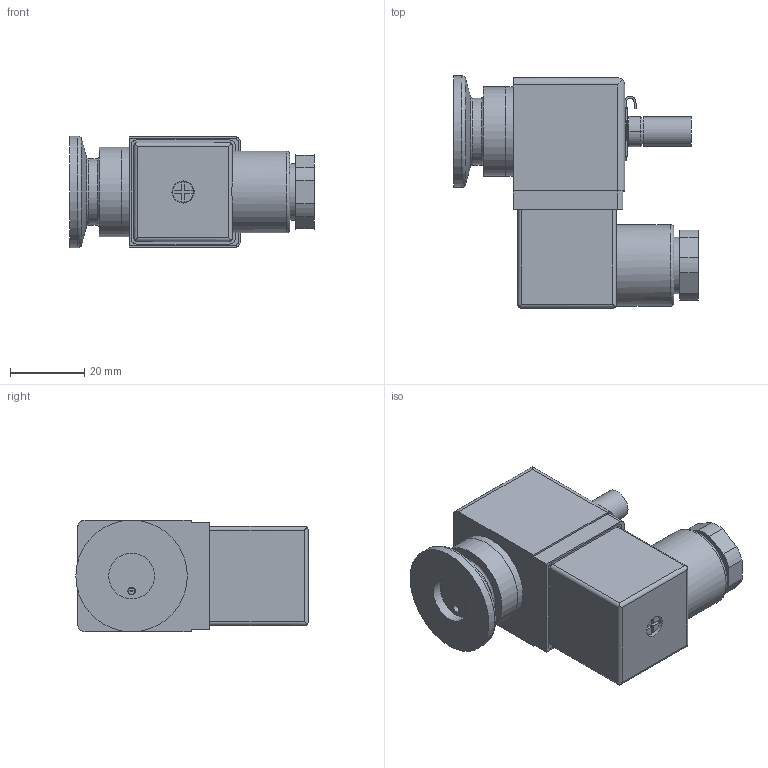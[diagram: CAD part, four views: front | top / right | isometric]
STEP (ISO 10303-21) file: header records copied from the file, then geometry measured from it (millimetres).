
FILE_DESCRIPTION(/* description */ (''),/* implementation_level */ '2;1');
FILE_NAME(/* name */ '1252402871_203.stp',/* time_stamp */ '2019-11-21T15:08:11+01:00',/* author */ (''),/* organization */ (''),/* preprocessor_version */ 'ST-DEVELOPER v16',/* originating_system */ 'SIEMENS PLM Software NX 11.0',/* authorisation */ '');
FILE_SCHEMA (('AP203_CONFIGURATION_CONTROLLED_3D_DESIGN_OF_MECHANICAL_PARTS_AND_ASSEMBLIES_MIM_LF { 1 0 10303 403 2 1 2}'));
Length unit declared in the file: millimetre
Products named in the file (7): 700464; 700614; n-7705-305.1; 582693; 595992; 597303; 587521
Assembly tree (6 placements, depth 2):
  587521
    597303
    595992
    582693
    n-7705-305.1
    700614
    700464
Bounding box: 65.8 x 62.5 x 30 mm (x, y, z)
Volume: 63498.3 mm3; surface area: 22479.9 mm2
Topology: 7 solids, 7 shells, 301 faces, 712 edges, 461 vertices
Faces by surface type: plane 154, cylinder 101, cone 32, torus 14
Full cylindrical faces by diameter (mm): 1.6 x3, 2 x2, 2.459 x1, 2.5 x2, 3 x1, 3.5 x1, 3.6 x2, 5 x1, 5.5 x1, 6 x1, 6.06 x2, 8 x2, 8.1 x1, 9.05 x1, 9.1 x1, 11 x1, 12.025 x1, 12.3 x1, 15.2 x1, 15.5 x1, 18 x1, 22 x1, 24 x2, 30 x1
Entity records: 9439 total; most frequent: CARTESIAN_POINT 1611, DIRECTION 1517, ORIENTED_EDGE 1312, EDGE_CURVE 656, AXIS2_PLACEMENT_3D 566, VERTEX_POINT 455, EDGE_LOOP 403, LINE 385
